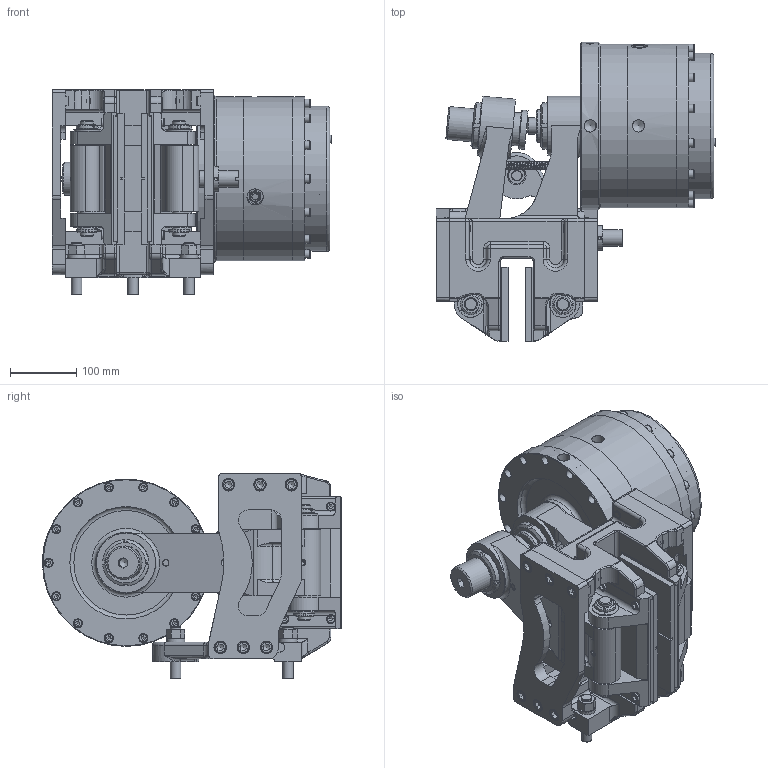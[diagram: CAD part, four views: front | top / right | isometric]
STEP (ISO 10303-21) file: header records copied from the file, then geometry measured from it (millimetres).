
FILE_DESCRIPTION(/* description */ ('','CAx-IF Rec.Pracs.---Representation and Presentation of Product Manufacturing Information (PMI)---4.0---2014-10-13'),/* implementation_level */ '2;1');
FILE_NAME(/* name */ 'X:\INVENTOR\DISEGNI\19_Pinze\STEP x Sito\PNEUM-NEGATIVE-PR\19_76_066_04 PPT-N066_25,4_PR.stp',/* time_stamp */ '2018-10-25T16:38:15+02:00',/* author */ ('stefano'),/* organization */ (''),/* preprocessor_version */ 'ST-DEVELOPER v17',/* originating_system */ 'Autodesk Inventor 2018',/* authorisation */ '');
FILE_SCHEMA (('AP242_MANAGED_MODEL_BASED_3D_ENGINEERING_MIM_LF { 1 0 10303 442 1 1 4 }'));
Products named in the file (1): 19_76_066_04 PPT-N066_25,4_PR_Substitute_1
Bounding box: 423.1 x 452.5 x 310 mm (x, y, z)
Volume: 12525721.6 mm3; surface area: 1579217.5 mm2
Topology: 1 solids, 1 shells, 2163 faces, 5971 edges, 3947 vertices
Faces by surface type: plane 1079, cylinder 607, torus 214, cone 211, bspline 32, sphere 20
Full cylindrical faces by diameter (mm): 1.8 x2, 4.917 x6, 5 x4, 5.25 x4, 6.3 x6, 6.647 x1, 6.917 x1, 7.4 x1, 7.5 x2, 8 x8, 8.25 x1, 8.376 x1, 8.5 x8, 8.917 x2, 9 x1, 9.188 x1, 10 x6, 10.106 x6, 10.5 x5, 11.445 x2, 12 x16, 12.5 x13, 13 x36, 13.157 x2, 13.5 x22, 14 x1, 15 x2, 16 x6, 16.5 x4, 17 x3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
Entity records: 81634 total; most frequent: CARTESIAN_POINT 24427, DIRECTION 11751, ORIENTED_EDGE 11750, EDGE_CURVE 5875, AXIS2_PLACEMENT_3D 4558, VERTEX_POINT 3947, LINE 2635, VECTOR 2635
